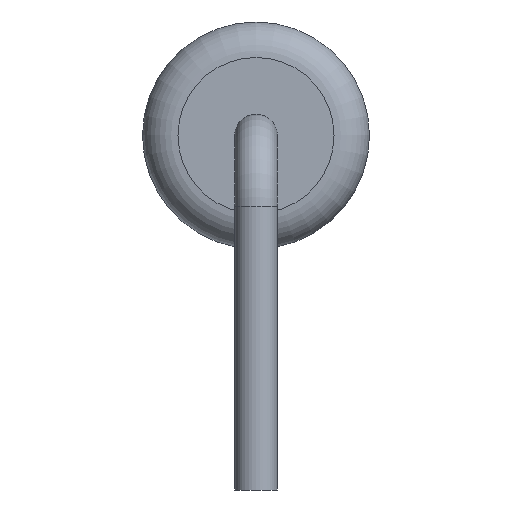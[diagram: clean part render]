
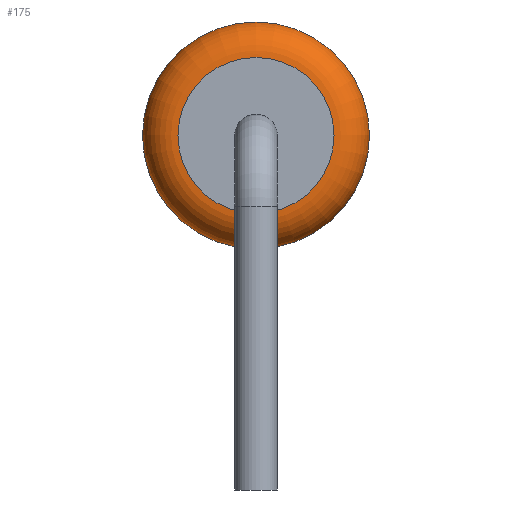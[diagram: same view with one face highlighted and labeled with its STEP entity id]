
A CAD part, left-side view. The second image highlights one B-rep face of the part: STEP entity #175.
In plain terms, the highlighted toroidal (fillet/blend) face has major radius 1.1 mm and minor radius 0.5 mm.
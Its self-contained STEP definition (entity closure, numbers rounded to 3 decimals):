
#175=ADVANCED_FACE('',(#344,#346),#348,.T.);
#344=FACE_OUTER_BOUND('',#345,.T.);
#345=EDGE_LOOP('',(#421));
#346=FACE_OUTER_BOUND('',#347,.T.);
#347=EDGE_LOOP('',(#422));
#348=TOROIDAL_SURFACE('',#349,1.1,0.5);
#349=AXIS2_PLACEMENT_3D('',#350,#351,#352);
#350=CARTESIAN_POINT('',(-4.,0.,0.));
#351=DIRECTION('',(-1.,0.,0.));
#352=DIRECTION('',(0.,0.,1.));
#421=ORIENTED_EDGE('',*,*,#444,.T.);
#422=ORIENTED_EDGE('',*,*,#445,.F.);
#444=EDGE_CURVE('',#474,#474,#475,.T.);
#445=EDGE_CURVE('',#476,#476,#477,.T.);
#474=VERTEX_POINT('',#546);
#475=CIRCLE('',#547,1.6);
#476=VERTEX_POINT('',#551);
#477=CIRCLE('',#552,1.1);
#546=CARTESIAN_POINT('',(-4.,0.,1.6));
#547=AXIS2_PLACEMENT_3D('',#548,#549,#550);
#548=CARTESIAN_POINT('',(-4.,0.,0.));
#549=DIRECTION('',(-1.,0.,0.));
#550=DIRECTION('',(0.,0.,1.));
#551=CARTESIAN_POINT('',(-4.5,0.,1.1));
#552=AXIS2_PLACEMENT_3D('',#553,#554,#555);
#553=CARTESIAN_POINT('',(-4.5,0.,0.));
#554=DIRECTION('',(-1.,0.,0.));
#555=DIRECTION('',(0.,0.,1.));
